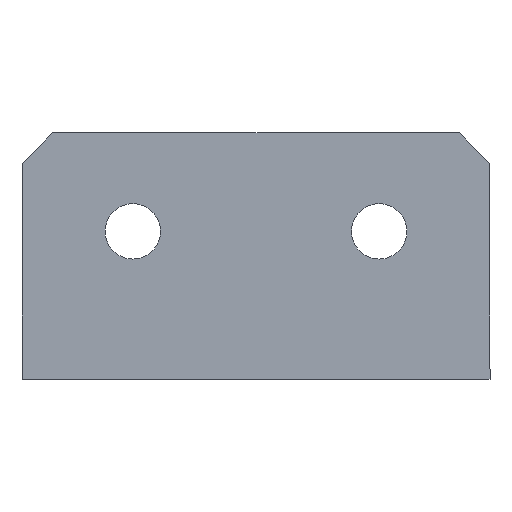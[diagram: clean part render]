
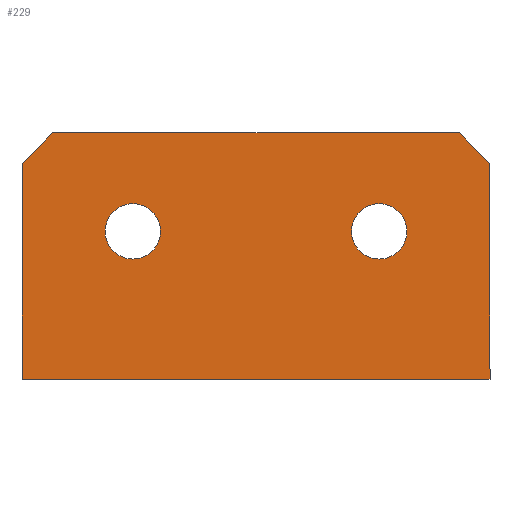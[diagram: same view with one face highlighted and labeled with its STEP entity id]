
A CAD part, top view. The second image highlights one B-rep face of the part: STEP entity #229.
In plain terms, the highlighted planar face has unit normal (0, 0, 1).
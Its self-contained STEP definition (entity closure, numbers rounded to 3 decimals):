
#49=FACE_BOUND('',#80,.T.);
#50=FACE_BOUND('',#81,.T.);
#59=PLANE('',#266);
#69=FACE_OUTER_BOUND('',#79,.T.);
#79=EDGE_LOOP('',(#203,#204,#205,#206,#207,#208));
#80=EDGE_LOOP('',(#209));
#81=EDGE_LOOP('',(#210));
#89=LINE('',#356,#109);
#92=LINE('',#362,#112);
#95=LINE('',#368,#115);
#98=LINE('',#374,#118);
#101=LINE('',#380,#121);
#104=LINE('',#384,#124);
#109=VECTOR('',#294,10.);
#112=VECTOR('',#299,10.);
#115=VECTOR('',#304,10.);
#118=VECTOR('',#309,10.);
#121=VECTOR('',#314,10.);
#124=VECTOR('',#319,10.);
#125=CIRCLE('',#255,4.5);
#127=CIRCLE('',#258,4.5);
#131=VERTEX_POINT('',#338);
#133=VERTEX_POINT('',#344);
#137=VERTEX_POINT('',#353);
#138=VERTEX_POINT('',#355);
#140=VERTEX_POINT('',#361);
#142=VERTEX_POINT('',#367);
#144=VERTEX_POINT('',#373);
#146=VERTEX_POINT('',#379);
#147=EDGE_CURVE('',#131,#131,#125,.T.);
#150=EDGE_CURVE('',#133,#133,#127,.T.);
#155=EDGE_CURVE('',#138,#137,#89,.T.);
#158=EDGE_CURVE('',#140,#138,#92,.T.);
#161=EDGE_CURVE('',#142,#140,#95,.T.);
#164=EDGE_CURVE('',#144,#142,#98,.T.);
#167=EDGE_CURVE('',#146,#144,#101,.T.);
#170=EDGE_CURVE('',#137,#146,#104,.T.);
#203=ORIENTED_EDGE('',*,*,#170,.T.);
#204=ORIENTED_EDGE('',*,*,#167,.T.);
#205=ORIENTED_EDGE('',*,*,#164,.T.);
#206=ORIENTED_EDGE('',*,*,#161,.T.);
#207=ORIENTED_EDGE('',*,*,#158,.T.);
#208=ORIENTED_EDGE('',*,*,#155,.T.);
#209=ORIENTED_EDGE('',*,*,#150,.T.);
#210=ORIENTED_EDGE('',*,*,#147,.T.);
#229=ADVANCED_FACE('',(#69,#49,#50),#59,.T.);
#255=AXIS2_PLACEMENT_3D('',#339,#278,#279);
#258=AXIS2_PLACEMENT_3D('',#345,#285,#286);
#266=AXIS2_PLACEMENT_3D('',#385,#320,#321);
#278=DIRECTION('center_axis',(0.,0.,-1.));
#279=DIRECTION('ref_axis',(-1.,0.,0.));
#285=DIRECTION('center_axis',(0.,0.,-1.));
#286=DIRECTION('ref_axis',(-1.,0.,0.));
#294=DIRECTION('',(-0.707,-0.707,0.));
#299=DIRECTION('',(-1.,0.,0.));
#304=DIRECTION('',(-0.707,0.707,0.));
#309=DIRECTION('',(0.,1.,0.));
#314=DIRECTION('',(1.,0.,0.));
#319=DIRECTION('',(0.,-1.,0.));
#320=DIRECTION('center_axis',(0.,0.,1.));
#321=DIRECTION('ref_axis',(1.,0.,0.));
#338=CARTESIAN_POINT('',(62.5,-16.,0.25));
#339=CARTESIAN_POINT('Origin',(58.,-16.,0.25));
#344=CARTESIAN_POINT('',(22.5,-16.,0.25));
#345=CARTESIAN_POINT('Origin',(18.,-16.,0.25));
#353=CARTESIAN_POINT('',(0.,-5.,0.25));
#355=CARTESIAN_POINT('',(5.,0.,0.25));
#356=CARTESIAN_POINT('',(5.,0.,0.25));
#361=CARTESIAN_POINT('',(71.,0.,0.25));
#362=CARTESIAN_POINT('',(71.,0.,0.25));
#367=CARTESIAN_POINT('',(76.,-5.,0.25));
#368=CARTESIAN_POINT('',(76.,-5.,0.25));
#373=CARTESIAN_POINT('',(76.,-40.,0.25));
#374=CARTESIAN_POINT('',(76.,-40.,0.25));
#379=CARTESIAN_POINT('',(0.,-40.,0.25));
#380=CARTESIAN_POINT('',(0.,-40.,0.25));
#384=CARTESIAN_POINT('',(0.,-5.,0.25));
#385=CARTESIAN_POINT('Origin',(38.,-20.,0.25));
